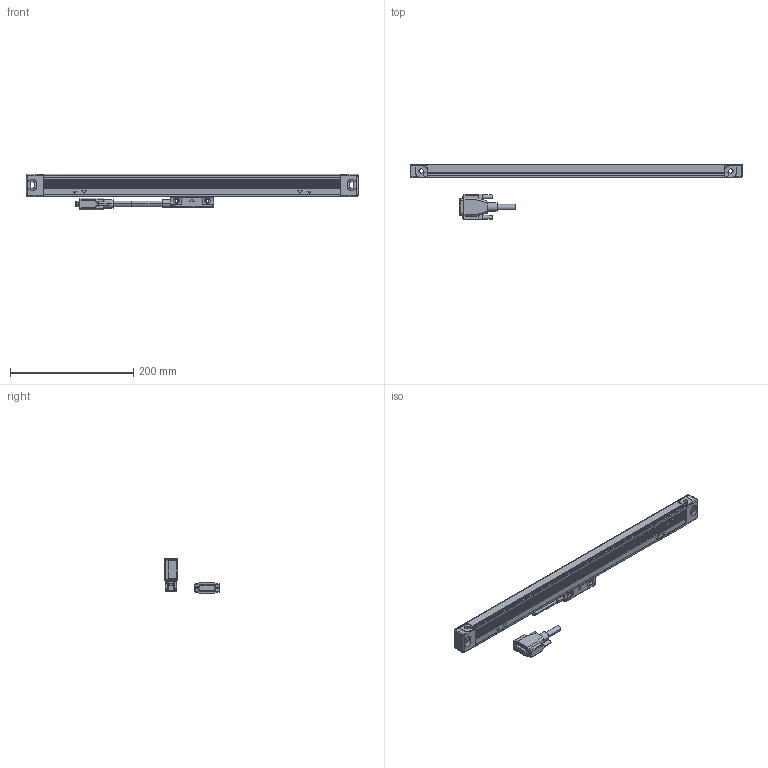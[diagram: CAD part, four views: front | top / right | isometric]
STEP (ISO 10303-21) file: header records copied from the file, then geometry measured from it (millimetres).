
FILE_DESCRIPTION(('Creo Elements/Direct Modeling STEP Export'),'2;1');
FILE_NAME('AT715-350_営業送付.stp','2018-12-20T15:22:54',(''),(''),'Creo Elements/Direct Modeling STEP processor for AP214 (Solid Model)','Creo Elements/Direct Modeling 18.1B 29-Sep-2012 (C) Parametric Technology GmbH','');
FILE_SCHEMA(('AUTOMOTIVE_DESIGN { 1 0 10303 214 1 1 1 1 }'));
Length unit declared in the file: millimetre
Products named in the file (4): Connector; DetectorHead; Scale_350; AT715-350
Assembly tree (3 placements, depth 2):
  AT715-350
    Scale_350
    DetectorHead
    Connector
Bounding box: 538 x 90 x 57.65 mm (x, y, z)
Volume: 430286 mm3; surface area: 100232.2 mm2
Topology: 3 solids, 5 shells, 501 faces, 1301 edges, 837 vertices
Faces by surface type: plane 280, cylinder 183, torus 18, cone 12, sphere 4, bspline 4
Entity records: 15747 total; most frequent: CARTESIAN_POINT 3442, ORIENTED_EDGE 2594, DIRECTION 2467, EDGE_CURVE 1297, VECTOR 839, LINE 839, VERTEX_POINT 837, AXIS2_PLACEMENT_3D 814
